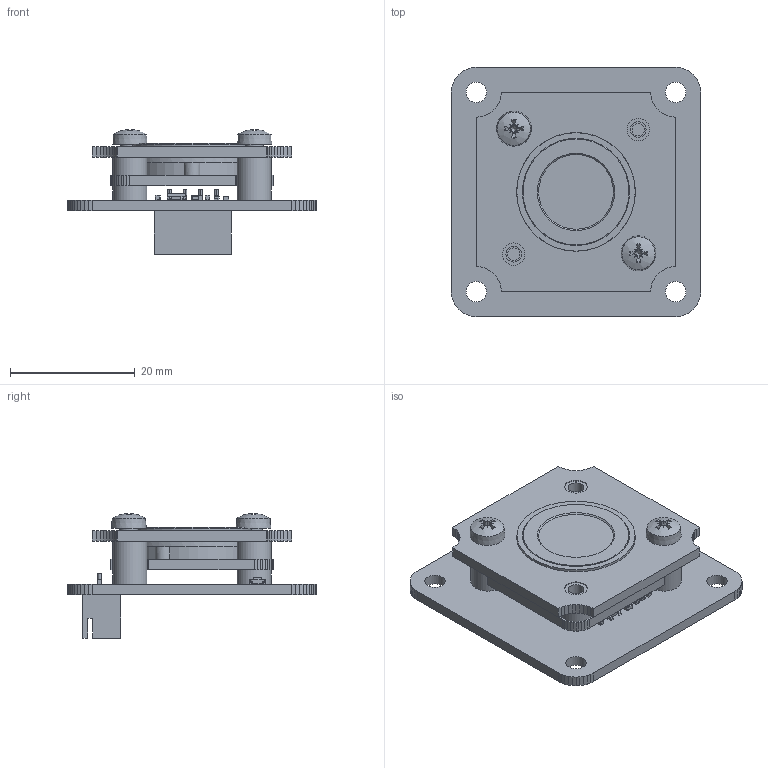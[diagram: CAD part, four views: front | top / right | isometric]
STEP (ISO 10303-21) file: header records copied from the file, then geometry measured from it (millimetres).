
FILE_DESCRIPTION(('Open CASCADE Model'),'2;1');
FILE_NAME('Open CASCADE Shape Model','2024-10-17T15:38:58',('Author'),( 'Open CASCADE'),'Open CASCADE STEP processor 6.5','Open CASCADE 6.5' ,'Unknown');
FILE_SCHEMA(('AUTOMOTIVE_DESIGN { 1 0 10303 214 1 1 1 1 }'));
Length unit declared in the file: millimetre
Products named in the file (29): PCB; Board; Designator42; M2-3ET; Designator43; Free-Models; RLSEB383FC狟裔啣; RLSEB383FC; P8; M3-7ET; P7; P1; CH2.54-4; C1; User_Library-0805(2012M)_Cap; C2; User_Library-0603(1608M)_Cap; C3; D1; LED0603(R); R1; 0603_R; U1; CircuitWorks-SOT-23; PA3; ISO_7049_-_ST2.9_x_6.5_-_C_-_ZDIN_ISO; 硌恇耀輸
Assembly tree (32 placements, depth 5):
  PCB
    Board
    Designator42
      M2-3ET
    Designator43
      M2-3ET
    Free-Models
      RLSEB383FC狟裔啣
        Board
      RLSEB383FC
        Board
        P8
          M3-7ET
        P7
          M3-7ET
        P1
          CH2.54-4
        C1
          User_Library-0805(2012M)_Cap
        C2
          User_Library-0603(1608M)_Cap
        C3
          User_Library-0603(1608M)_Cap
        D1
          LED0603(R)
        R1
          0603_R
        U1
          CircuitWorks-SOT-23
      PA3  x2
        ISO_7049_-_ST2.9_x_6.5_-_C_-_ZDIN_ISO
      硌恇耀輸
Bounding box: 40.02 x 40.02 x 19.99 mm (x, y, z)
Volume: 6922.6 mm3; surface area: 9247.8 mm2
Topology: 23 solids, 23 shells, 1106 faces, 2929 edges, 1883 vertices
Faces by surface type: plane 715, bspline 207, cylinder 129, cone 36, torus 8, sphere 6, extrusion 5
Full cylindrical faces by diameter (mm): 0.8 x4, 2.5 x4, 2.9 x2, 3.3 x4, 3.6 x4, 4 x2, 4.2 x2, 5.5 x4, 19 x1, 21 x1
Entity records: 77323 total; most frequent: CARTESIAN_POINT 27320, DIRECTION 7527, VECTOR 5302, LINE 5297, ORIENTED_EDGE 4932, PCURVE 4932, DEFINITIONAL_REPRESENTATION 4932, EDGE_CURVE 2466
